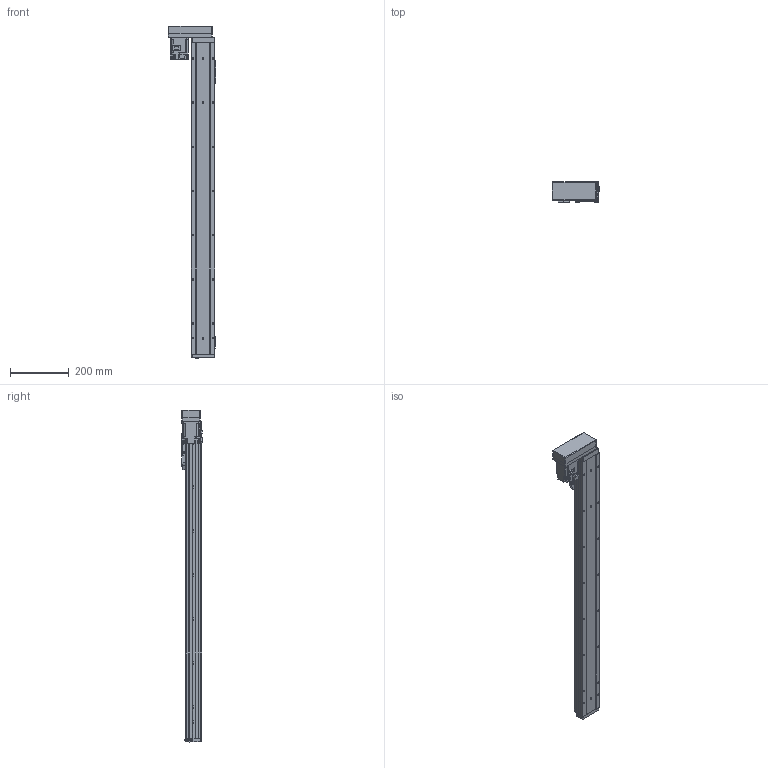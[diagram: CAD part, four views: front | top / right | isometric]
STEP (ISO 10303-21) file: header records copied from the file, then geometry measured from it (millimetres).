
FILE_DESCRIPTION (( 'STEP AP214' ), '1' );
FILE_NAME ('GSH8-900-BR-M20-1.step', '2025-01-07T06:11:33', ( '' ), ( '' ), 'SwSTEP 2.0', 'SolidWorks 2012', '' );
FILE_SCHEMA (( 'AUTOMOTIVE_DESIGN' ));
Length unit declared in the file: millimetre
Products named in the file (5): GSH8-900-BR-M20-1; GSH8-BL-011-900-M20; HG-KR23_200W_Motor; GSH8-BL-008; GSH8-GY-004
Assembly tree (4 placements, depth 2):
  GSH8-900-BR-M20-1
    GSH8-BL-011-900-M20
    GSH8-GY-004
    GSH8-BL-008
    HG-KR23_200W_Motor
Bounding box: 163 x 71.3 x 1128.2 mm (x, y, z)
Volume: 2542613.5 mm3; surface area: 660044 mm2
Topology: 4 solids, 8 shells, 1157 faces, 3047 edges, 1963 vertices
Faces by surface type: plane 648, cylinder 413, torus 42, cone 26, bspline 24, sphere 4
Entity records: 45759 total; most frequent: CARTESIAN_POINT 10768, DIRECTION 6191, ORIENTED_EDGE 6078, EDGE_CURVE 3039, AXIS2_PLACEMENT_3D 2090, LINE 2011, VECTOR 2011, VERTEX_POINT 1959
